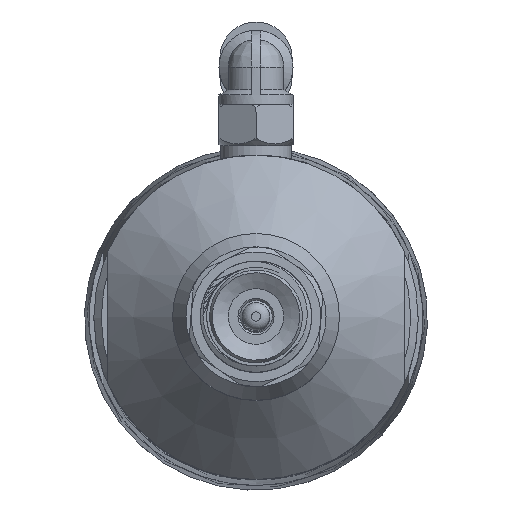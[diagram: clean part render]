
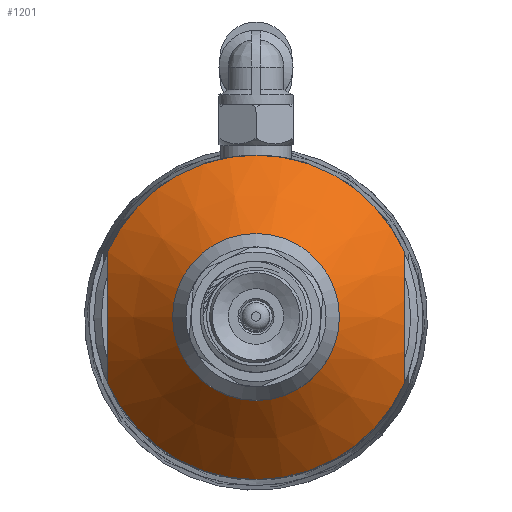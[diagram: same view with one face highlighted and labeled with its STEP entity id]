
A CAD part, top view. The second image highlights one B-rep face of the part: STEP entity #1201.
In plain terms, the highlighted conical face has half-angle 45 degrees and reference radius 9 mm.
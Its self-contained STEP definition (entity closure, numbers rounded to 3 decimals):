
#1031 = CARTESIAN_POINT ( 'NONE',  ( 16., -6.527, -96.571 ) ) ;
#1148 = CARTESIAN_POINT ( 'NONE',  ( 16., 0.607, -95.298 ) ) ;
#1201 = ADVANCED_FACE ( 'NONE', ( #12353, #14265 ), #12927, .T. ) ;
#2151 = CARTESIAN_POINT ( 'NONE',  ( -16., -4.789, -95.991 ) ) ;
#2497 = B_SPLINE_CURVE_WITH_KNOTS ( 'NONE', 3,
 ( #3334, #17121, #24912, #9475, #23009, #5498, #13300, #21085, #11370, #17247, #25040, #10433, #2151, #17716, #14119, #21432 ),
 .UNSPECIFIED., .F., .F.,
 ( 4, 2, 2, 2, 2, 2, 2, 4 ),
 ( 0.081, 0.083, 0.085, 0.087, 0.088, 0.092, 0.094, 0.096 ),
 .UNSPECIFIED. ) ;
#2801 = CARTESIAN_POINT ( 'NONE',  ( 16., 7.089, -96.798 ) ) ;
#2885 = CIRCLE ( 'NONE', #11894, 17.5 ) ;
#3334 = CARTESIAN_POINT ( 'NONE',  ( -16., 7.089, -96.798 ) ) ;
#4054 = CIRCLE ( 'NONE', #10954, 9. ) ;
#4392 = CARTESIAN_POINT ( 'NONE',  ( -16., 7.089, -96.798 ) ) ;
#4566 = DIRECTION ( 'NONE',  ( 0., 0., -1. ) ) ;
#5227 = CARTESIAN_POINT ( 'NONE',  ( 16., -2.432, -95.441 ) ) ;
#5498 = CARTESIAN_POINT ( 'NONE',  ( -16., 3.021, -95.571 ) ) ;
#6063 = DIRECTION ( 'NONE',  ( 0., 0., -1. ) ) ;
#6086 = EDGE_LOOP ( 'NONE', ( #12610 ) ) ;
#6747 = CARTESIAN_POINT ( 'NONE',  ( 16., -7.089, -96.798 ) ) ;
#7134 = CARTESIAN_POINT ( 'NONE',  ( 16., 6.525, -96.57 ) ) ;
#7407 = ORIENTED_EDGE ( 'NONE', *, *, #17241, .T. ) ;
#7562 = VERTEX_POINT ( 'NONE', #16894 ) ;
#8349 = CARTESIAN_POINT ( 'NONE',  ( 0., 0., -96.798 ) ) ;
#8390 = VERTEX_POINT ( 'NONE', #18911 ) ;
#8531 = DIRECTION ( 'NONE',  ( -1., 0., 0. ) ) ;
#8581 = EDGE_CURVE ( 'NONE', #12475, #16560, #2497, .T. ) ;
#8600 = DIRECTION ( 'NONE',  ( 0., 0., -1. ) ) ;
#8656 = EDGE_CURVE ( 'NONE', #21660, #21660, #4054, .T. ) ;
#8815 = EDGE_CURVE ( 'NONE', #7562, #16560, #17899, .T. ) ;
#9070 = CARTESIAN_POINT ( 'NONE',  ( 16., 5.948, -96.359 ) ) ;
#9277 = CARTESIAN_POINT ( 'NONE',  ( -16., -7.089, -96.798 ) ) ;
#9475 = CARTESIAN_POINT ( 'NONE',  ( -16., 4.788, -95.99 ) ) ;
#10267 = DIRECTION ( 'NONE',  ( -1., 0., 0. ) ) ;
#10433 = CARTESIAN_POINT ( 'NONE',  ( -16., -4.203, -95.831 ) ) ;
#10839 = CARTESIAN_POINT ( 'NONE',  ( 16., 4.203, -95.831 ) ) ;
#10954 = AXIS2_PLACEMENT_3D ( 'NONE', #23554, #6063, #21650 ) ;
#11316 = ORIENTED_EDGE ( 'NONE', *, *, #8815, .F. ) ;
#11370 = CARTESIAN_POINT ( 'NONE',  ( -16., 0.607, -95.298 ) ) ;
#11894 = AXIS2_PLACEMENT_3D ( 'NONE', #8349, #18296, #23801 ) ;
#12353 = FACE_OUTER_BOUND ( 'NONE', #21368, .T. ) ;
#12475 = VERTEX_POINT ( 'NONE', #4392 ) ;
#12610 = ORIENTED_EDGE ( 'NONE', *, *, #8656, .T. ) ;
#12763 = CARTESIAN_POINT ( 'NONE',  ( 16., -4.789, -95.991 ) ) ;
#12927 = CONICAL_SURFACE ( 'NONE', #19049, 9., 0.785 ) ;
#13023 = CARTESIAN_POINT ( 'NONE',  ( 16., -4.203, -95.831 ) ) ;
#13300 = CARTESIAN_POINT ( 'NONE',  ( -16., 2.424, -95.47 ) ) ;
#14064 = B_SPLINE_CURVE_WITH_KNOTS ( 'NONE', 3,
 ( #6747, #1031, #22211, #12763, #13023, #5227, #16722, #1148, #14530, #18629, #22335, #10839, #22595, #9070, #7134, #2801 ),
 .UNSPECIFIED., .F., .F.,
 ( 4, 2, 2, 2, 2, 2, 2, 4 ),
 ( 0.069, 0.071, 0.073, 0.077, 0.078, 0.08, 0.082, 0.084 ),
 .UNSPECIFIED. ) ;
#14119 = CARTESIAN_POINT ( 'NONE',  ( -16., -6.527, -96.571 ) ) ;
#14265 = FACE_BOUND ( 'NONE', #6086, .T. ) ;
#14530 = CARTESIAN_POINT ( 'NONE',  ( 16., 1.219, -95.334 ) ) ;
#16560 = VERTEX_POINT ( 'NONE', #9277 ) ;
#16722 = CARTESIAN_POINT ( 'NONE',  ( 16., -1.231, -95.299 ) ) ;
#16894 = CARTESIAN_POINT ( 'NONE',  ( 16., -7.089, -96.798 ) ) ;
#17121 = CARTESIAN_POINT ( 'NONE',  ( -16., 6.525, -96.57 ) ) ;
#17241 = EDGE_CURVE ( 'NONE', #7562, #8390, #14064, .T. ) ;
#17247 = CARTESIAN_POINT ( 'NONE',  ( -16., -1.231, -95.299 ) ) ;
#17716 = CARTESIAN_POINT ( 'NONE',  ( -16., -5.951, -96.36 ) ) ;
#17760 = ORIENTED_EDGE ( 'NONE', *, *, #8581, .T. ) ;
#17899 = CIRCLE ( 'NONE', #18292, 17.5 ) ;
#18292 = AXIS2_PLACEMENT_3D ( 'NONE', #24174, #8600, #10267 ) ;
#18296 = DIRECTION ( 'NONE',  ( 0., 0., -1. ) ) ;
#18629 = CARTESIAN_POINT ( 'NONE',  ( 16., 2.424, -95.47 ) ) ;
#18911 = CARTESIAN_POINT ( 'NONE',  ( 16., 7.089, -96.798 ) ) ;
#19049 = AXIS2_PLACEMENT_3D ( 'NONE', #23741, #4566, #8531 ) ;
#21085 = CARTESIAN_POINT ( 'NONE',  ( -16., 1.219, -95.334 ) ) ;
#21293 = CARTESIAN_POINT ( 'NONE',  ( -9., 0., -88.298 ) ) ;
#21368 = EDGE_LOOP ( 'NONE', ( #23118, #17760, #11316, #7407 ) ) ;
#21432 = CARTESIAN_POINT ( 'NONE',  ( -16., -7.089, -96.798 ) ) ;
#21650 = DIRECTION ( 'NONE',  ( -1., 0., 0. ) ) ;
#21660 = VERTEX_POINT ( 'NONE', #21293 ) ;
#22211 = CARTESIAN_POINT ( 'NONE',  ( 16., -5.951, -96.36 ) ) ;
#22335 = CARTESIAN_POINT ( 'NONE',  ( 16., 3.021, -95.571 ) ) ;
#22595 = CARTESIAN_POINT ( 'NONE',  ( 16., 4.788, -95.99 ) ) ;
#23009 = CARTESIAN_POINT ( 'NONE',  ( -16., 4.203, -95.831 ) ) ;
#23118 = ORIENTED_EDGE ( 'NONE', *, *, #24168, .F. ) ;
#23554 = CARTESIAN_POINT ( 'NONE',  ( 0., 0., -88.298 ) ) ;
#23741 = CARTESIAN_POINT ( 'NONE',  ( 0., 0., -88.298 ) ) ;
#23801 = DIRECTION ( 'NONE',  ( -1., 0., 0. ) ) ;
#24168 = EDGE_CURVE ( 'NONE', #12475, #8390, #2885, .T. ) ;
#24174 = CARTESIAN_POINT ( 'NONE',  ( 0., 0., -96.798 ) ) ;
#24912 = CARTESIAN_POINT ( 'NONE',  ( -16., 5.948, -96.359 ) ) ;
#25040 = CARTESIAN_POINT ( 'NONE',  ( -16., -2.432, -95.441 ) ) ;
